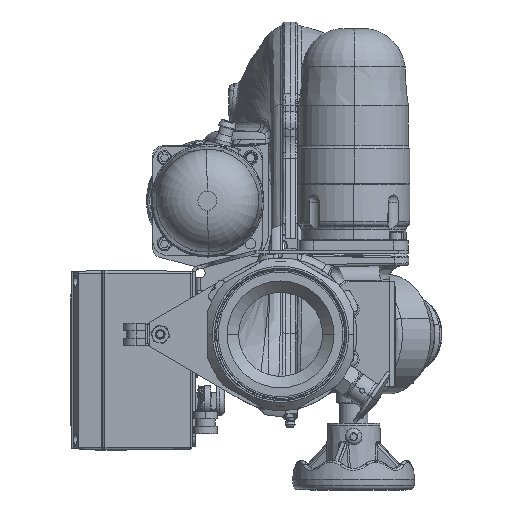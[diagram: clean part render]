
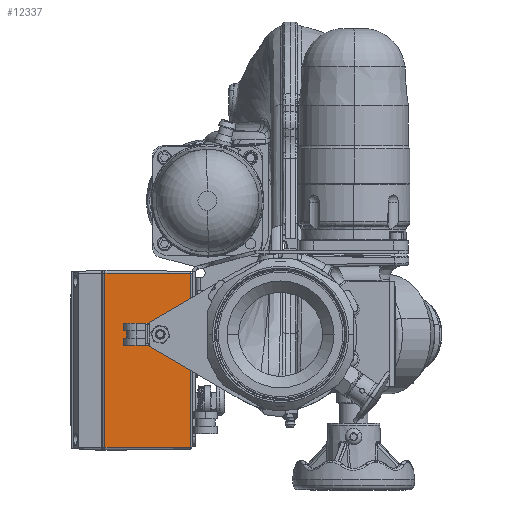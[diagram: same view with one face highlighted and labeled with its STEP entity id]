
A CAD part, front view. The second image highlights one B-rep face of the part: STEP entity #12337.
In plain terms, the highlighted planar face has unit normal (0.014, -1, 0).
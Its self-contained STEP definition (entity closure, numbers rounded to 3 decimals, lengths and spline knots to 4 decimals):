
#374 = LINE ( 'NONE', #141107, #178434 ) ;
#1535 = DIRECTION ( 'NONE',  ( -1., -0.014, 0. ) ) ;
#12337 = ADVANCED_FACE ( 'NONE', ( #78334 ), #111161, .T. ) ;
#15025 = ORIENTED_EDGE ( 'NONE', *, *, #146452, .F. ) ;
#15399 = CARTESIAN_POINT ( 'NONE',  ( -2.6018, -0.917, -2.9568 ) ) ;
#15806 = VERTEX_POINT ( 'NONE', #85503 ) ;
#25391 = LINE ( 'NONE', #81095, #147021 ) ;
#30776 = DIRECTION ( 'NONE',  ( -1., -0.014, 0. ) ) ;
#36004 = VERTEX_POINT ( 'NONE', #99674 ) ;
#38065 = VECTOR ( 'NONE', #1535, 39.3701 ) ;
#54492 = EDGE_CURVE ( 'NONE', #58654, #36004, #374, .T. ) ;
#58654 = VERTEX_POINT ( 'NONE', #137529 ) ;
#59026 = DIRECTION ( 'NONE',  ( 0., 0., -1. ) ) ;
#78334 = FACE_OUTER_BOUND ( 'NONE', #115748, .T. ) ;
#81095 = CARTESIAN_POINT ( 'NONE',  ( -2.6018, -0.917, 1.6032 ) ) ;
#85503 = CARTESIAN_POINT ( 'NONE',  ( -2.6018, -0.917, 1.6032 ) ) ;
#97809 = LINE ( 'NONE', #142516, #115181 ) ;
#98961 = DIRECTION ( 'NONE',  ( 1., 0.014, 0. ) ) ;
#99674 = CARTESIAN_POINT ( 'NONE',  ( -4.8476, -0.9483, -2.9568 ) ) ;
#111161 = PLANE ( 'NONE',  #167197 ) ;
#114213 = ORIENTED_EDGE ( 'NONE', *, *, #54492, .T. ) ;
#115181 = VECTOR ( 'NONE', #30776, 39.3701 ) ;
#115748 = EDGE_LOOP ( 'NONE', ( #15025, #159851, #137292, #114213 ) ) ;
#133625 = VERTEX_POINT ( 'NONE', #15399 ) ;
#137292 = ORIENTED_EDGE ( 'NONE', *, *, #169991, .T. ) ;
#137529 = CARTESIAN_POINT ( 'NONE',  ( -4.8476, -0.9483, 1.6032 ) ) ;
#141107 = CARTESIAN_POINT ( 'NONE',  ( -4.8476, -0.9483, -2.9568 ) ) ;
#142516 = CARTESIAN_POINT ( 'NONE',  ( -4.9186, -0.9493, -2.9568 ) ) ;
#144565 = LINE ( 'NONE', #169646, #38065 ) ;
#146452 = EDGE_CURVE ( 'NONE', #133625, #36004, #97809, .T. ) ;
#147021 = VECTOR ( 'NONE', #151050, 39.3701 ) ;
#151050 = DIRECTION ( 'NONE',  ( 0., 0., 1. ) ) ;
#154290 = CARTESIAN_POINT ( 'NONE',  ( -4.9186, -0.9493, -2.9568 ) ) ;
#159851 = ORIENTED_EDGE ( 'NONE', *, *, #169055, .T. ) ;
#167197 = AXIS2_PLACEMENT_3D ( 'NONE', #154290, #168197, #98961 ) ;
#168197 = DIRECTION ( 'NONE',  ( 0.014, -1., 0. ) ) ;
#169055 = EDGE_CURVE ( 'NONE', #133625, #15806, #25391, .T. ) ;
#169646 = CARTESIAN_POINT ( 'NONE',  ( -4.9186, -0.9493, 1.6032 ) ) ;
#169991 = EDGE_CURVE ( 'NONE', #15806, #58654, #144565, .T. ) ;
#178434 = VECTOR ( 'NONE', #59026, 39.3701 ) ;
